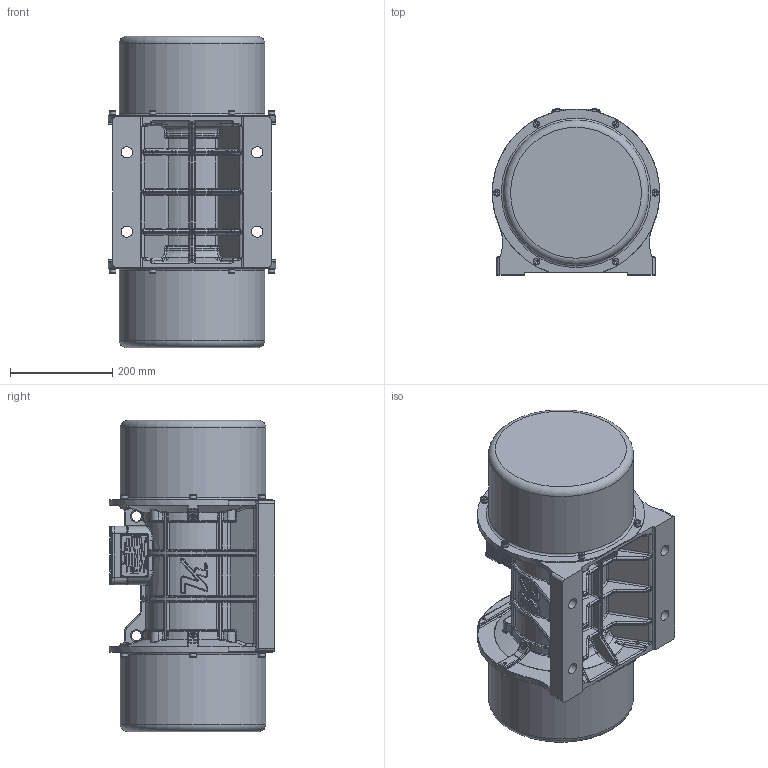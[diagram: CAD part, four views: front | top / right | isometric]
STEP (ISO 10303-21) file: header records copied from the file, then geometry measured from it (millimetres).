
FILE_DESCRIPTION(/* description */ (''),/* implementation_level */ '2;1');
FILE_NAME(/* name */ '7 NO B TAS.stp',/* time_stamp */ '2026-09-03T09:27:32+03:00',/* author */ ('PC'),/* organization */ (''),/* preprocessor_version */ 'ST-DEVELOPER v20.1',/* originating_system */ 'Autodesk Inventor 2026',/* authorisation */ '');
FILE_SCHEMA (('AUTOMOTIVE_DESIGN { 1 0 10303 214 3 1 1 }'));
Products named in the file (1): 7 NO B TAS
Bounding box: 326.95 x 324 x 608 mm (x, y, z)
Volume: 32366507.4 mm3; surface area: 1047879.6 mm2
Topology: 1 solids, 23 shells, 5635 faces, 14843 edges, 9401 vertices
Faces by surface type: plane 2652, bspline 1471, cylinder 787, torus 415, cone 156, sphere 154
Full cylindrical faces by diameter (mm): 3 x4, 3.917 x2, 4.917 x8, 6.647 x12, 8 x12, 8.4 x12, 9 x12, 10 x4, 10.5 x4, 13 x12, 14 x5, 15 x1, 20 x3, 22 x5, 42 x4, 284 x2
Entity records: 228172 total; most frequent: CARTESIAN_POINT 95617, ORIENTED_EDGE 29362, DIRECTION 22768, EDGE_CURVE 14681, VERTEX_POINT 9401, LINE 8206, VECTOR 8206, AXIS2_PLACEMENT_3D 7281
